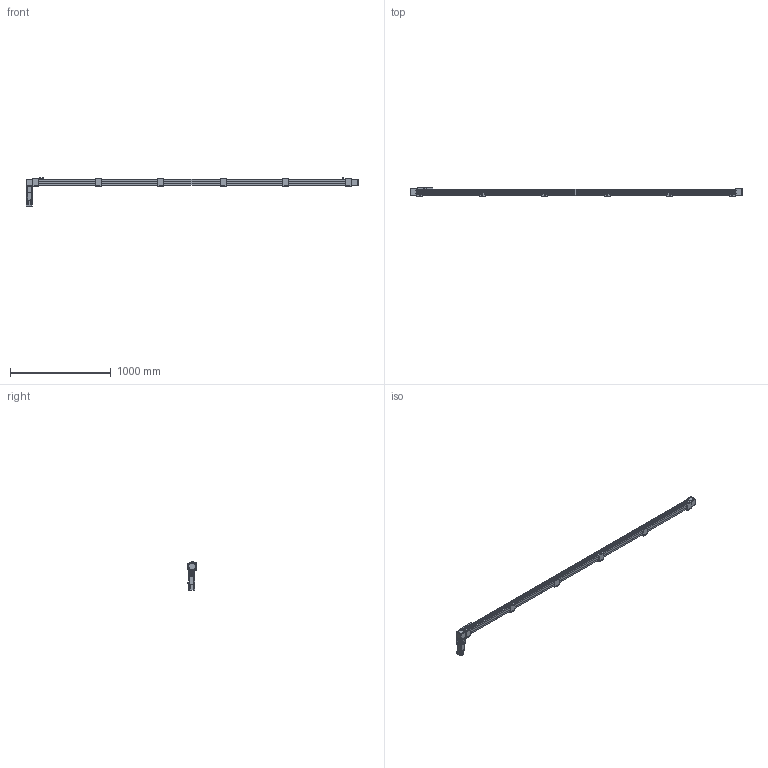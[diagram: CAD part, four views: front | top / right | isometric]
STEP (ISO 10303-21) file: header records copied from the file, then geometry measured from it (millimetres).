
FILE_DESCRIPTION(/* description */ ('STEP AP214'),/* implementation_level */ '2;1');
FILE_NAME(/* name */ 'SK60-P13-S3000-BR-T40-C1-N(0)',/* time_stamp */ '2023-04-06T04:03:36+02:00',/* author */ ('License CC BY-ND 4.0'),/* organization */ ('CADENAS'),/* preprocessor_version */ 'ST-DEVELOPER v19.3',/* originating_system */ 'PARTsolutions',/* authorisation */ ' ');
FILE_SCHEMA (('AUTOMOTIVE_DESIGN {1 0 10303 214 3 1 1}'));
Length unit declared in the file: millimetre
Products named in the file (11): SK60-P13-S3000-BR-T40-C1-N(0); PSC140-sensor; SK60-S450_seat; SK60-S450-BL-C1_slider; SK60_body3; SK60_body6; SK60-BL_body2; T40-p1; SK60_body5; SK60_body4; SK60-S3000-BR-C1_body
Assembly tree (21 placements, depth 2):
  SK60-P13-S3000-BR-T40-C1-N(0)
    PSC140-sensor  x3
    SK60-S450_seat  x6
    SK60-S450-BL-C1_slider
    SK60_body3  x3
    SK60_body6  x2
    SK60-BL_body2  x2
    T40-p1
    SK60_body5
    SK60_body4
    SK60-S3000-BR-C1_body
Bounding box: 3300 x 90 x 279.1 mm (x, y, z)
Volume: 11781643.1 mm3; surface area: 1412505.4 mm2
Topology: 21 solids, 25 shells, 1010 faces, 2501 edges, 1650 vertices
Faces by surface type: plane 640, cylinder 330, cone 38, torus 2
Full cylindrical faces by diameter (mm): 2.8 x3, 3.3 x4, 4.2 x8, 4.5 x26, 4.6 x3, 4.917 x32, 5 x2, 5.478 x4, 5.5 x35, 6.5 x12, 8 x4, 8.5 x4, 9.988 x4, 10 x24, 13.556 x1, 14 x1, 14.586 x1, 19.692 x1, 38.432 x2, 43 x1, 44 x3, 47 x2, 50 x2
Entity records: 19403 total; most frequent: DIRECTION 3300, CARTESIAN_POINT 3293, ORIENTED_EDGE 3050, EDGE_CURVE 1525, AXIS2_PLACEMENT_3D 1104, LINE 1092, VECTOR 1092, VERTEX_POINT 1077
